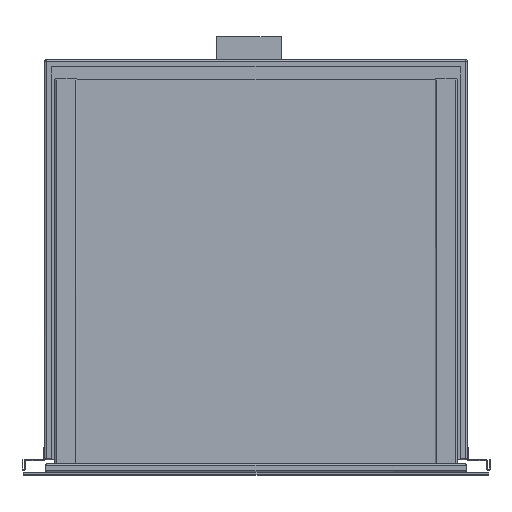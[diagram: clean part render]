
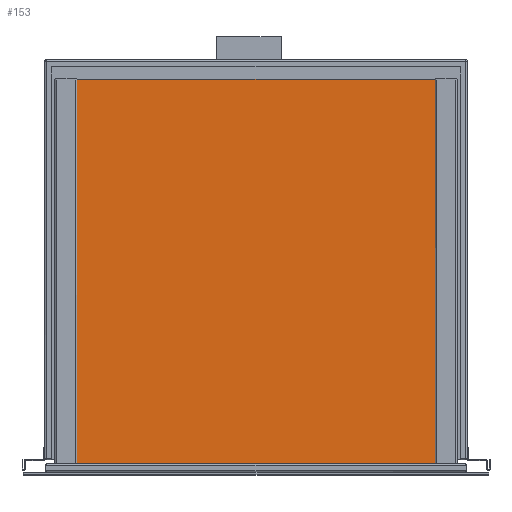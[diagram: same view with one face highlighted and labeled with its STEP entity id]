
A CAD part, top view. The second image highlights one B-rep face of the part: STEP entity #153.
In plain terms, the highlighted planar face has unit normal (0, 0, 1).
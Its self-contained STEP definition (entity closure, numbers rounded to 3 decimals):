
#153=ADVANCED_FACE('',(#313),#2459,.T.);
#313=FACE_OUTER_BOUND('',#473,.T.);
#473=EDGE_LOOP('',(#826,#827,#828,#829));
#826=ORIENTED_EDGE('',*,*,#1477,.F.);
#827=ORIENTED_EDGE('',*,*,#1478,.F.);
#828=ORIENTED_EDGE('',*,*,#1479,.F.);
#829=ORIENTED_EDGE('',*,*,#1476,.F.);
#1476=EDGE_CURVE('',#2194,#2195,#1930,.T.);
#1477=EDGE_CURVE('',#2196,#2194,#1931,.T.);
#1478=EDGE_CURVE('',#2197,#2196,#1932,.T.);
#1479=EDGE_CURVE('',#2195,#2197,#1933,.T.);
#1930=B_SPLINE_CURVE_WITH_KNOTS('',1,(#3730,#3731),.UNSPECIFIED.,.F.,.F.,
(2,2),(-456.,0.),.UNSPECIFIED.);
#1931=B_SPLINE_CURVE_WITH_KNOTS('',1,(#3732,#3733),.UNSPECIFIED.,.F.,.F.,
(2,2),(-490.,0.),.UNSPECIFIED.);
#1932=B_SPLINE_CURVE_WITH_KNOTS('',1,(#3734,#3735),.UNSPECIFIED.,.F.,.F.,
(2,2),(-456.,0.),.UNSPECIFIED.);
#1933=B_SPLINE_CURVE_WITH_KNOTS('',1,(#3736,#3737),.UNSPECIFIED.,.F.,.F.,
(2,2),(-490.,0.),.UNSPECIFIED.);
#2194=VERTEX_POINT('',#3702);
#2195=VERTEX_POINT('',#3703);
#2196=VERTEX_POINT('',#3704);
#2197=VERTEX_POINT('',#3705);
#2459=PLANE('',#2585);
#2585=AXIS2_PLACEMENT_3D('',#3685,#2730,$);
#2730=DIRECTION('',(0.,0.,1.));
#3685=CARTESIAN_POINT('',(553.16,203.46,-60.));
#3702=CARTESIAN_POINT('',(51.5,154.4,-60.));
#3703=CARTESIAN_POINT('',(507.5,154.4,-60.));
#3704=CARTESIAN_POINT('',(51.5,-335.6,-60.));
#3705=CARTESIAN_POINT('',(507.5,-335.6,-60.));
#3730=CARTESIAN_POINT('',(51.5,154.4,-60.));
#3731=CARTESIAN_POINT('',(507.5,154.4,-60.));
#3732=CARTESIAN_POINT('',(51.5,-335.6,-60.));
#3733=CARTESIAN_POINT('',(51.5,154.4,-60.));
#3734=CARTESIAN_POINT('',(507.5,-335.6,-60.));
#3735=CARTESIAN_POINT('',(51.5,-335.6,-60.));
#3736=CARTESIAN_POINT('',(507.5,154.4,-60.));
#3737=CARTESIAN_POINT('',(507.5,-335.6,-60.));
